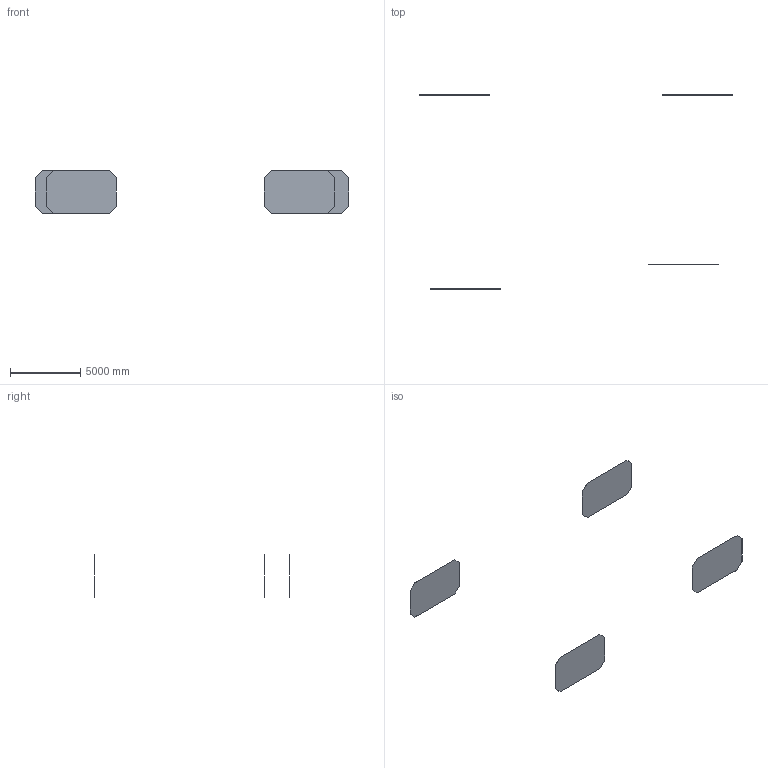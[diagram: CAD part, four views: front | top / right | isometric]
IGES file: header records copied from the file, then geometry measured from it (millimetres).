
Start section: IGES file generated by C3D Converter 1.5 translator by C3D Labs., translator version IGESOUT-5.1.
Global section: file name: C:\Users\Andi_men\Downloads\Ban_t1.iges; native system: C3D-based application; preprocessor: 1.0; author: unknown; organization: unknown; date: -17770108:094217; units: millimetre
Bounding box: 22355.34 x 13824.71 x 3000 mm (x, y, z)
Surface area: 116118627.4 mm2
Topology: 40 solids, 40 shells, 40 faces, 192 edges, 192 vertices
Faces by surface type: bspline 40
